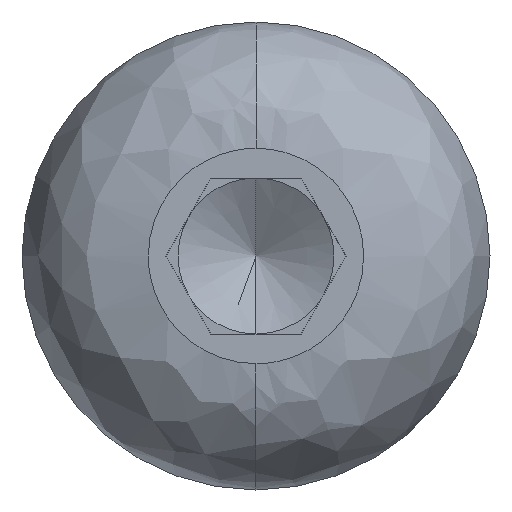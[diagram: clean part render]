
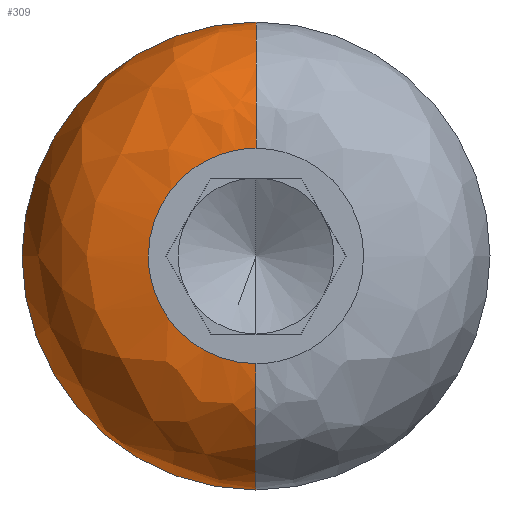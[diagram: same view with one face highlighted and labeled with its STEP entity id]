
A CAD part, left-side view. The second image highlights one B-rep face of the part: STEP entity #309.
In plain terms, the highlighted free-form (B-spline) face has degree [3, 3] with [4, 4] control points.
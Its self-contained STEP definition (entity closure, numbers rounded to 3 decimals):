
#3 = DIRECTION ( 'NONE',  ( 0., -1., 0. ) ) ;
#50 = VERTEX_POINT ( 'NONE', #602 ) ;
#102 = CARTESIAN_POINT ( 'NONE',  ( 0., 2.76, 0. ) ) ;
#117 = EDGE_CURVE ( 'NONE', #514, #449, #427, .T. ) ;
#141 = EDGE_CURVE ( 'NONE', #439, #514, #186, .T. ) ;
#159 = DIRECTION ( 'NONE',  ( 0., 0., 1. ) ) ;
#161 = DIRECTION ( 'NONE',  ( 0., 1., 0. ) ) ;
#164 = CARTESIAN_POINT ( 'NONE',  ( 3.24, 0., 2.76 ) ) ;
#175 = CARTESIAN_POINT ( 'NONE',  ( 0., 2.76, 0. ) ) ;
#186 =( BOUNDED_CURVE ( )  B_SPLINE_CURVE ( 3, ( #222, #299, #189, #175 ),
 .UNSPECIFIED., .F., .F. ) 
 B_SPLINE_CURVE_WITH_KNOTS ( ( 4, 4 ),
 ( 0., 1. ),
 .UNSPECIFIED. ) 
 CURVE ( )  GEOMETRIC_REPRESENTATION_ITEM ( )  RATIONAL_B_SPLINE_CURVE ( ( 1., 0.805, 0.805, 1. ) ) 
 REPRESENTATION_ITEM ( '' )  );
#189 = CARTESIAN_POINT ( 'NONE',  ( 0., 2.76, -1.617 ) ) ;
#207 = CIRCLE ( 'NONE', #348, 3.24 ) ;
#222 = CARTESIAN_POINT ( 'NONE',  ( 0., 0., -2.76 ) ) ;
#255 = CARTESIAN_POINT ( 'NONE',  ( 0., 0., 2.76 ) ) ;
#271 = EDGE_CURVE ( 'NONE', #50, #411, #321, .T. ) ;
#299 = CARTESIAN_POINT ( 'NONE',  ( 0., 1.617, -2.76 ) ) ;
#309 = ADVANCED_FACE ( 'NONE', ( #787 ), #600, .T. ) ;
#318 = CARTESIAN_POINT ( 'NONE',  ( 0., 0., 2.76 ) ) ;
#321 = CIRCLE ( 'NONE', #414, 6. ) ;
#348 = AXIS2_PLACEMENT_3D ( 'NONE', #164, #161, #159 ) ;
#350 = CARTESIAN_POINT ( 'NONE',  ( 0., 0., -2.76 ) ) ;
#353 = EDGE_LOOP ( 'NONE', ( #490, #499, #500, #508, #515 ) ) ;
#361 = CARTESIAN_POINT ( 'NONE',  ( 0., 1.617, 2.76 ) ) ;
#375 = CARTESIAN_POINT ( 'NONE',  ( 0., 2.76, 0. ) ) ;
#391 = CARTESIAN_POINT ( 'NONE',  ( 3.24, 0., -2.76 ) ) ;
#411 = VERTEX_POINT ( 'NONE', #428 ) ;
#414 = AXIS2_PLACEMENT_3D ( 'NONE', #615, #613, #603 ) ;
#420 = CIRCLE ( 'NONE', #734, 3.24 ) ;
#427 =( BOUNDED_CURVE ( )  B_SPLINE_CURVE ( 3, ( #375, #719, #361, #318 ),
 .UNSPECIFIED., .F., .F. ) 
 B_SPLINE_CURVE_WITH_KNOTS ( ( 4, 4 ),
 ( 0., 1. ),
 .UNSPECIFIED. ) 
 CURVE ( )  GEOMETRIC_REPRESENTATION_ITEM ( )  RATIONAL_B_SPLINE_CURVE ( ( 1., 0.805, 0.805, 1. ) ) 
 REPRESENTATION_ITEM ( '' )  );
#428 = CARTESIAN_POINT ( 'NONE',  ( 3.24, 0., 6. ) ) ;
#439 = VERTEX_POINT ( 'NONE', #350 ) ;
#449 = VERTEX_POINT ( 'NONE', #255 ) ;
#456 = DIRECTION ( 'NONE',  ( 0., 0., -1. ) ) ;
#488 = EDGE_CURVE ( 'NONE', #449, #411, #207, .T. ) ;
#490 = ORIENTED_EDGE ( 'NONE', *, *, #752, .F. ) ;
#499 = ORIENTED_EDGE ( 'NONE', *, *, #141, .T. ) ;
#500 = ORIENTED_EDGE ( 'NONE', *, *, #117, .T. ) ;
#508 = ORIENTED_EDGE ( 'NONE', *, *, #488, .T. ) ;
#514 = VERTEX_POINT ( 'NONE', #102 ) ;
#515 = ORIENTED_EDGE ( 'NONE', *, *, #271, .F. ) ;
#519 = CARTESIAN_POINT ( 'NONE',  ( 3.24, 0., -6. ) ) ;
#520 = CARTESIAN_POINT ( 'NONE',  ( 3.24, 12., -6. ) ) ;
#522 = CARTESIAN_POINT ( 'NONE',  ( 3.24, 12., 6. ) ) ;
#527 = CARTESIAN_POINT ( 'NONE',  ( 3.24, 0., 6. ) ) ;
#531 = CARTESIAN_POINT ( 'NONE',  ( 1.342, 0., -6. ) ) ;
#533 = CARTESIAN_POINT ( 'NONE',  ( 1.342, 12., -6. ) ) ;
#535 = CARTESIAN_POINT ( 'NONE',  ( 1.342, 12., 6. ) ) ;
#537 = CARTESIAN_POINT ( 'NONE',  ( 1.342, 0., 6. ) ) ;
#539 = CARTESIAN_POINT ( 'NONE',  ( 0., 0., -4.658 ) ) ;
#540 = CARTESIAN_POINT ( 'NONE',  ( 0., 9.316, -4.658 ) ) ;
#544 = CARTESIAN_POINT ( 'NONE',  ( 0., 9.316, 4.658 ) ) ;
#547 = CARTESIAN_POINT ( 'NONE',  ( 0., 0., 4.658 ) ) ;
#552 = CARTESIAN_POINT ( 'NONE',  ( 0., 0., -2.76 ) ) ;
#553 = CARTESIAN_POINT ( 'NONE',  ( 0., 5.52, -2.76 ) ) ;
#555 = CARTESIAN_POINT ( 'NONE',  ( 0., 0., 2.76 ) ) ;
#580 = CARTESIAN_POINT ( 'NONE',  ( 0., 5.52, 2.76 ) ) ;
#600 =( BOUNDED_SURFACE ( )  B_SPLINE_SURFACE ( 3, 3, ( 
 ( #555, #580, #553, #552 ),
 ( #547, #544, #540, #539 ),
 ( #537, #535, #533, #531 ),
 ( #527, #522, #520, #519 ) ),
 .UNSPECIFIED., .F., .F., .F. ) 
 B_SPLINE_SURFACE_WITH_KNOTS ( ( 4, 4 ),
 ( 4, 4 ),
 ( 0., 1. ),
 ( 0., 1. ),
 .UNSPECIFIED. ) 
 GEOMETRIC_REPRESENTATION_ITEM ( )  RATIONAL_B_SPLINE_SURFACE ( (
 ( 1., 0.333, 0.333, 1.),
 ( 0.805, 0.268, 0.268, 0.805),
 ( 0.805, 0.268, 0.268, 0.805),
 ( 1., 0.333, 0.333, 1.) ) ) 
 REPRESENTATION_ITEM ( '' )  SURFACE ( )  );
#602 = CARTESIAN_POINT ( 'NONE',  ( 3.24, 0., -6. ) ) ;
#603 = DIRECTION ( 'NONE',  ( 0., 0., 1. ) ) ;
#613 = DIRECTION ( 'NONE',  ( 1., 0., 0. ) ) ;
#615 = CARTESIAN_POINT ( 'NONE',  ( 3.24, 0., 0. ) ) ;
#719 = CARTESIAN_POINT ( 'NONE',  ( 0., 2.76, 1.617 ) ) ;
#734 = AXIS2_PLACEMENT_3D ( 'NONE', #391, #3, #456 ) ;
#752 = EDGE_CURVE ( 'NONE', #439, #50, #420, .T. ) ;
#787 = FACE_OUTER_BOUND ( 'NONE', #353, .T. ) ;
